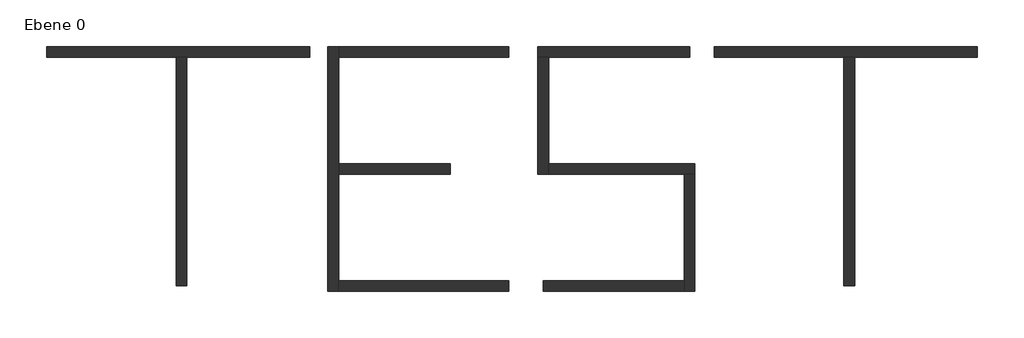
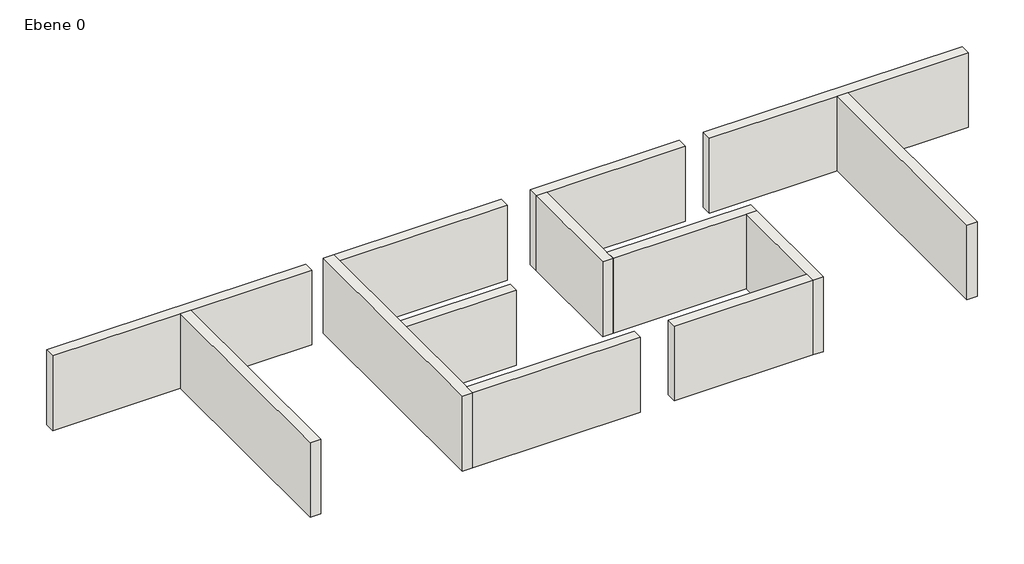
# One storey: 13 walls.
"""IFC4 building model written with IfcOpenShell, lengths in millimetres."""

from ifc_helpers import new_model, si_unit, origin, origin_with_axes, place, context, project, spatial, polyline, outline, extrude, faceted_brep, element, save

model = new_model("IFC4")

# Units and contexts
model_context = context("Model", 3, world=origin())
ifc_project = project(units=[si_unit("LENGTHUNIT", "METRE", prefix="MILLI")], contexts=[model_context])

# Site, building, storey
site = spatial("IfcSite", under=ifc_project)
building = spatial("IfcBuilding", under=site)
storey = spatial("IfcBuildingStorey", under=building, Name="Ebene 0", Elevation=0.0)

# Walls
placement = place(None, origin())
element("IfcWall", 1, ObjectType="KS 36.5", at=placement, inside=storey, context=model_context, shape_type="SweptSolid", body=[
    extrude(outline(polyline([(-10276.7409449, -4369.4439922), (-10276.7409449, 3448.0560078), (-9911.7409449, 3448.0560078), (-9911.7409449, -4369.4439922), (-10276.7409449, -4369.4439922)])), origin_with_axes(), (0.0, 0.0, 1.0), 2750.0),
])
element("IfcWall", 2, ObjectType="KS 36.5", at=placement, inside=storey, context=model_context, shape_type="Brep", body=[
    faceted_brep([(-14713.0430984, 3448.0560078, 0.0), (-10276.7409449, 3448.0560078, 0.0), (-9911.7409449, 3448.0560078, 0.0), (-5713.0430984, 3448.0560078, 0.0), (-5713.0430984, 3448.0560078, 2750.0), (-9911.7409449, 3448.0560078, 2750.0), (-10276.7409449, 3448.0560078, 2750.0), (-14713.0430984, 3448.0560078, 2750.0), (-14713.0430984, 3813.0560078, 0.0), (-14713.0430984, 3813.0560078, 2750.0), (-5713.0430984, 3813.0560078, 2750.0), (-5713.0430984, 3813.0560078, 0.0)], [[[0, 1, 2, 3, 4, 5, 6, 7]], [[8, 9, 10, 11]], [[3, 2, 1, 0, 8, 11]], [[4, 3, 11, 10]], [[7, 6, 5, 4, 10, 9]], [[0, 7, 9, 8]]]),
])
element("IfcWall", 3, ObjectType="KS 36.5", at=placement, inside=storey, context=model_context, shape_type="Brep", body=[
    faceted_brep([(-5094.2409449, 3813.0560078, 0.0), (-5094.2409449, -4551.9439922, 0.0), (-5094.2409449, -4551.9439922, 2750.0), (-5094.2409449, 3813.0560078, 2750.0), (-4729.2409449, 3813.0560078, 0.0), (-4729.2409449, 3813.0560078, 2750.0), (-4729.2409449, 3448.0560078, 2750.0), (-4729.2409449, -186.9439922, 2750.0), (-4729.2409449, -551.9439922, 2750.0), (-4729.2409449, -4186.9439922, 2750.0), (-4729.2409449, -4551.9439922, 2750.0), (-4729.2409449, -4551.9439922, 0.0), (-4729.2409449, -4186.9439922, 0.0), (-4729.2409449, -551.9439922, 0.0), (-4729.2409449, -186.9439922, 0.0), (-4729.2409449, 3448.0560078, 0.0)], [[[0, 1, 2, 3]], [[4, 5, 6, 7, 8, 9, 10, 11, 12, 13, 14, 15]], [[1, 0, 4, 15, 14, 13, 12, 11]], [[3, 2, 10, 9, 8, 7, 6, 5]], [[2, 1, 11, 10]], [[0, 3, 5, 4]]]),
])
element("IfcWall", 4, ObjectType="KS 36.5", at=placement, inside=storey, context=model_context, shape_type="SweptSolid", body=[
    extrude(outline(polyline([(1088.2590551, -4551.9439922), (-4729.2409449, -4551.9439922), (-4729.2409449, -4186.9439922), (1088.2590551, -4186.9439922), (1088.2590551, -4551.9439922)])), origin_with_axes(), (0.0, 0.0, 1.0), 2750.0),
])
element("IfcWall", 5, ObjectType="KS 36.5", at=placement, inside=storey, context=model_context, shape_type="SweptSolid", body=[
    extrude(outline(polyline([(-4729.2409449, 3813.0560078), (1088.2590551, 3813.0560078), (1088.2590551, 3448.0560078), (-4729.2409449, 3448.0560078), (-4729.2409449, 3813.0560078)])), origin_with_axes(), (0.0, 0.0, 1.0), 2750.0),
])
element("IfcWall", 6, ObjectType="KS 36.5", at=placement, inside=storey, context=model_context, shape_type="SweptSolid", body=[
    extrude(outline(polyline([(-911.7409449, -551.9439922), (-4729.2409449, -551.9439922), (-4729.2409449, -186.9439922), (-911.7409449, -186.9439922), (-911.7409449, -551.9439922)])), origin_with_axes(), (0.0, 0.0, 1.0), 2750.0),
])
element("IfcWall", 7, ObjectType="KS 36.5", at=placement, inside=storey, context=model_context, shape_type="Brep", body=[
    faceted_brep([(7270.7590551, 3813.0560078, 0.0), (2088.2590551, 3813.0560078, 0.0), (2088.2590551, 3813.0560078, 2750.0), (7270.7590551, 3813.0560078, 2750.0), (7270.7590551, 3448.0560078, 0.0), (7270.7590551, 3448.0560078, 2750.0), (2453.2590551, 3448.0560078, 2750.0), (2088.2590551, 3448.0560078, 2750.0), (2088.2590551, 3448.0560078, 0.0), (2453.2590551, 3448.0560078, 0.0)], [[[0, 1, 2, 3]], [[4, 5, 6, 7, 8, 9]], [[1, 0, 4, 9, 8]], [[3, 2, 7, 6, 5]], [[0, 3, 5, 4]], [[2, 1, 8, 7]]]),
])
element("IfcWall", 8, ObjectType="KS 36.5", at=placement, inside=storey, context=model_context, shape_type="Brep", body=[
    faceted_brep([(2088.2590551, 3448.0560078, 0.0), (2088.2590551, -551.9439922, 0.0), (2088.2590551, -551.9439922, 2750.0), (2088.2590551, 3448.0560078, 2750.0), (2453.2590551, 3448.0560078, 0.0), (2453.2590551, 3448.0560078, 2750.0), (2453.2590551, -186.9439922, 2750.0), (2453.2590551, -551.9439922, 2750.0), (2453.2590551, -551.9439922, 0.0), (2453.2590551, -186.9439922, 0.0)], [[[0, 1, 2, 3]], [[4, 5, 6, 7, 8, 9]], [[1, 0, 4, 9, 8]], [[3, 2, 7, 6, 5]], [[0, 3, 5, 4]], [[2, 1, 8, 7]]]),
])
element("IfcWall", 9, ObjectType="KS 36.5", at=placement, inside=storey, context=model_context, shape_type="Brep", body=[
    faceted_brep([(2453.2590551, -551.9439922, 0.0), (7088.2590551, -551.9439922, 0.0), (7453.2590551, -551.9439922, 0.0), (7453.2590551, -551.9439922, 2750.0), (7088.2590551, -551.9439922, 2750.0), (2453.2590551, -551.9439922, 2750.0), (2453.2590551, -186.9439922, 0.0), (2453.2590551, -186.9439922, 2750.0), (7453.2590551, -186.9439922, 2750.0), (7453.2590551, -186.9439922, 0.0)], [[[0, 1, 2, 3, 4, 5]], [[6, 7, 8, 9]], [[2, 1, 0, 6, 9]], [[5, 4, 3, 8, 7]], [[0, 5, 7, 6]], [[3, 2, 9, 8]]]),
])
element("IfcWall", 10, ObjectType="KS 36.5", at=placement, inside=storey, context=model_context, shape_type="Brep", body=[
    faceted_brep([(7088.2590551, -551.9439922, 0.0), (7088.2590551, -4186.9439922, 0.0), (7088.2590551, -4551.9439922, 0.0), (7088.2590551, -4551.9439922, 2750.0), (7088.2590551, -4186.9439922, 2750.0), (7088.2590551, -551.9439922, 2750.0), (7453.2590551, -551.9439922, 0.0), (7453.2590551, -551.9439922, 2750.0), (7453.2590551, -4551.9439922, 2750.0), (7453.2590551, -4551.9439922, 0.0)], [[[0, 1, 2, 3, 4, 5]], [[6, 7, 8, 9]], [[2, 1, 0, 6, 9]], [[5, 4, 3, 8, 7]], [[0, 5, 7, 6]], [[3, 2, 9, 8]]]),
])
element("IfcWall", 11, ObjectType="KS 36.5", at=placement, inside=storey, context=model_context, shape_type="SweptSolid", body=[
    extrude(outline(polyline([(2270.7590551, -4186.9439922), (7088.2590551, -4186.9439922), (7088.2590551, -4551.9439922), (2270.7590551, -4551.9439922), (2270.7590551, -4186.9439922)])), origin_with_axes(), (0.0, 0.0, 1.0), 2750.0),
])
element("IfcWall", 12, ObjectType="KS 36.5", at=placement, inside=storey, context=model_context, shape_type="SweptSolid", body=[
    extrude(outline(polyline([(12548.7213585, -4369.4439922), (12548.7213585, 3448.0560078), (12913.7213585, 3448.0560078), (12913.7213585, -4369.4439922), (12548.7213585, -4369.4439922)])), origin_with_axes(), (0.0, 0.0, 1.0), 2750.0),
])
element("IfcWall", 13, ObjectType="KS 36.5", at=placement, inside=storey, context=model_context, shape_type="Brep", body=[
    faceted_brep([(8112.419205, 3448.0560078, 0.0), (12548.7213585, 3448.0560078, 0.0), (12913.7213585, 3448.0560078, 0.0), (17112.419205, 3448.0560078, 0.0), (17112.419205, 3448.0560078, 2750.0), (12913.7213585, 3448.0560078, 2750.0), (12548.7213585, 3448.0560078, 2750.0), (8112.419205, 3448.0560078, 2750.0), (8112.419205, 3813.0560078, 0.0), (8112.419205, 3813.0560078, 2750.0), (17112.419205, 3813.0560078, 2750.0), (17112.419205, 3813.0560078, 0.0)], [[[0, 1, 2, 3, 4, 5, 6, 7]], [[8, 9, 10, 11]], [[3, 2, 1, 0, 8, 11]], [[4, 3, 11, 10]], [[7, 6, 5, 4, 10, 9]], [[0, 7, 9, 8]]]),
])

save(model, "model.ifc")
